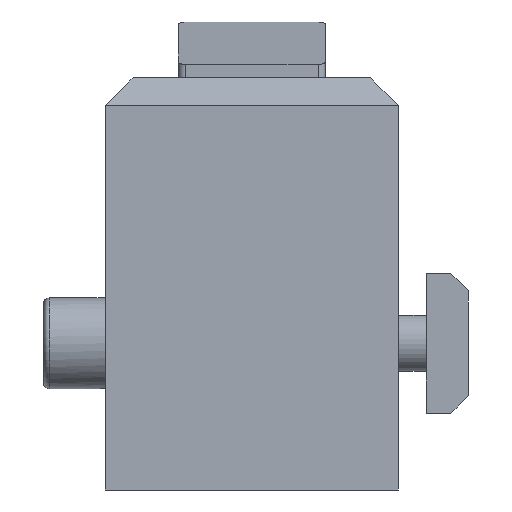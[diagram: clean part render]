
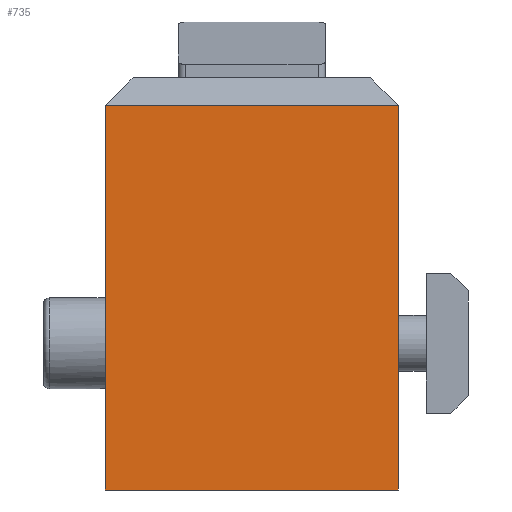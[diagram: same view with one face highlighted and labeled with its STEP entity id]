
A CAD part, left-side view. The second image highlights one B-rep face of the part: STEP entity #735.
In plain terms, the highlighted planar face has unit normal (-1, 0, 0).
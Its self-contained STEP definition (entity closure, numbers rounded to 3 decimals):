
#92=FACE_OUTER_BOUND('',#146,.T.);
#146=EDGE_LOOP('',(#593,#594,#595,#596));
#191=LINE('',#1108,#262);
#193=LINE('',#1114,#264);
#216=LINE('',#1175,#287);
#219=LINE('',#1181,#290);
#262=VECTOR('',#913,55.);
#264=VECTOR('',#917,55.);
#287=VECTOR('',#976,42.);
#290=VECTOR('',#983,42.);
#329=VERTEX_POINT('',#1102);
#331=VERTEX_POINT('',#1106);
#332=VERTEX_POINT('',#1110);
#334=VERTEX_POINT('',#1113);
#405=EDGE_CURVE('',#329,#331,#191,.T.);
#407=EDGE_CURVE('',#334,#332,#193,.T.);
#438=EDGE_CURVE('',#329,#332,#216,.T.);
#441=EDGE_CURVE('',#334,#331,#219,.T.);
#593=ORIENTED_EDGE('',*,*,#438,.F.);
#594=ORIENTED_EDGE('',*,*,#405,.T.);
#595=ORIENTED_EDGE('',*,*,#441,.F.);
#596=ORIENTED_EDGE('',*,*,#407,.T.);
#650=PLANE('',#797);
#735=ADVANCED_FACE('',(#92),#650,.T.);
#797=AXIS2_PLACEMENT_3D('',#1180,#981,#982);
#913=DIRECTION('',(0.,0.,-1.));
#917=DIRECTION('',(0.,0.,1.));
#976=DIRECTION('',(0.,-1.,0.));
#981=DIRECTION('center_axis',(-1.,0.,0.));
#982=DIRECTION('ref_axis',(0.,-1.,0.));
#983=DIRECTION('',(0.,1.,0.));
#1102=CARTESIAN_POINT('',(0.,42.,55.));
#1106=CARTESIAN_POINT('',(0.,42.,0.));
#1108=CARTESIAN_POINT('',(0.,42.,55.));
#1110=CARTESIAN_POINT('',(0.,0.,55.));
#1113=CARTESIAN_POINT('',(0.,0.,0.));
#1114=CARTESIAN_POINT('',(0.,0.,0.));
#1175=CARTESIAN_POINT('',(0.,42.,55.));
#1180=CARTESIAN_POINT('Origin',(0.,0.,
59.));
#1181=CARTESIAN_POINT('',(0.,0.,0.));
